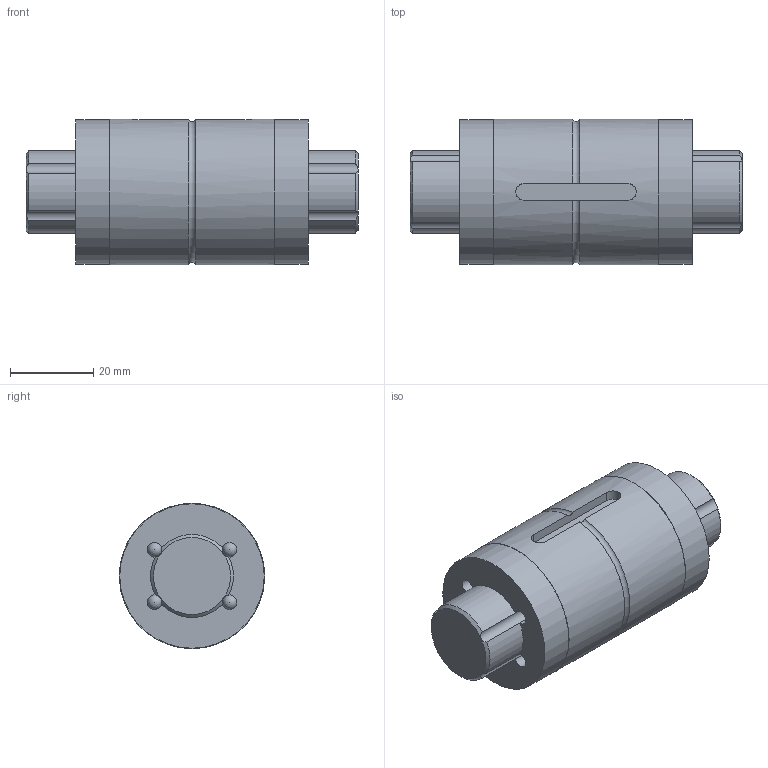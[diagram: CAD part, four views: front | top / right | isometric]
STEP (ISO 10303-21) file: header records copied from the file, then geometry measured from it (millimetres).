
FILE_DESCRIPTION(/* description */ ('Unknown'),/* implementation_level */ '2;1');
FILE_NAME(/* name */ 'TLT020-D-L80',/* time_stamp */ '2024-12-23T10:14:10+08:00',/* author */ ('Unknown'),/* organization */ ('Unknown'),/* preprocessor_version */ 'ST-DEVELOPER v18.102',/* originating_system */ 'Solid Edge',/* authorisation */ 'Unknown');
FILE_SCHEMA (('AUTOMOTIVE_DESIGN {1 0 10303 214 3 1 1}'));
Length unit declared in the file: millimetre
Products named in the file (3): TLT020-D-L80; TLT020-D-xxxx; TLT020
Assembly tree (2 placements, depth 2):
  TLT020-D-L80
    TLT020-D-xxxx
    TLT020
Bounding box: 80 x 35 x 35 mm (x, y, z)
Volume: 58963.9 mm3; surface area: 18812.4 mm2
Topology: 2 solids, 2 shells, 62 faces, 283 edges, 186 vertices
Faces by surface type: cylinder 23, sphere 20, plane 9, cone 8, torus 2
Full cylindrical faces by diameter (mm): 2 x1, 34.8 x2, 35 x2
Entity records: 3508 total; most frequent: CARTESIAN_POINT 1407, ORIENTED_EDGE 478, DIRECTION 332, EDGE_CURVE 239, VERTEX_POINT 167, AXIS2_PLACEMENT_3D 133, EDGE_LOOP 124, FACE_BOUND 124
